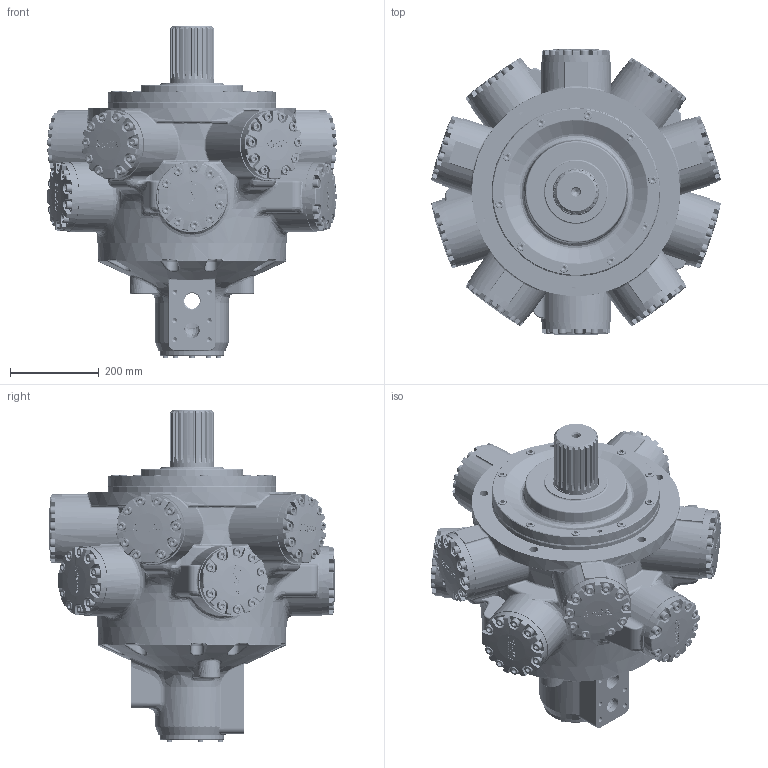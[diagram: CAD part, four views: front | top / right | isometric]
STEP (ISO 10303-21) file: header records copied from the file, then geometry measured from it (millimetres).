
FILE_DESCRIPTION((''),'2;1');
FILE_NAME('I:\3D Step files\APPROVED 3D MODELS FOR WEB\Staffa\HMHDB400 SV 70.stp','2010-01-25T08:50:41',('mnorman'),(''),'Autodesk Inventor 2010','Autodesk Inventor 2010','');
FILE_SCHEMA(('AUTOMOTIVE_DESIGN { 1 0 10303 214 1 1 1 1 }'));
Length unit declared in the file: millimetre
Products named in the file (1): Part1
Bounding box: 652.77 x 643.6 x 748.42 mm (x, y, z)
Volume: 49016902.1 mm3; surface area: 3704276.7 mm2
Topology: 243 solids, 243 shells, 7051 faces, 17000 edges, 10568 vertices
Faces by surface type: bspline 2783, plane 2274, cylinder 1229, cone 483, torus 282
Full cylindrical faces by diameter (mm): 7.937 x5, 11.328 x50, 11.913 x5, 12.7 x120, 13.5 x50, 15.875 x10, 17.526 x2, 19.05 x120, 20.6 x50, 28.575 x1, 35.052 x3, 38.1 x7, 79.375 x1, 88.9 x1, 88.951 x1, 92.075 x1, 92.15 x10, 92.151 x1, 100.653 x1, 101.282 x2, 101.485 x20, 101.575 x11, 101.605 x1, 101.651 x1, 105.664 x1, 118.999 x1, 127 x1, 139.7 x1, 141.3 x1, 146.05 x1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
Entity records: 287871 total; most frequent: CARTESIAN_POINT 145107, ORIENTED_EDGE 29140, DIRECTION 22070, EDGE_CURVE 14570, VERTEX_POINT 9733, EDGE_LOOP 9051, AXIS2_PLACEMENT_3D 8359, FACE_OUTER_BOUND 7050
